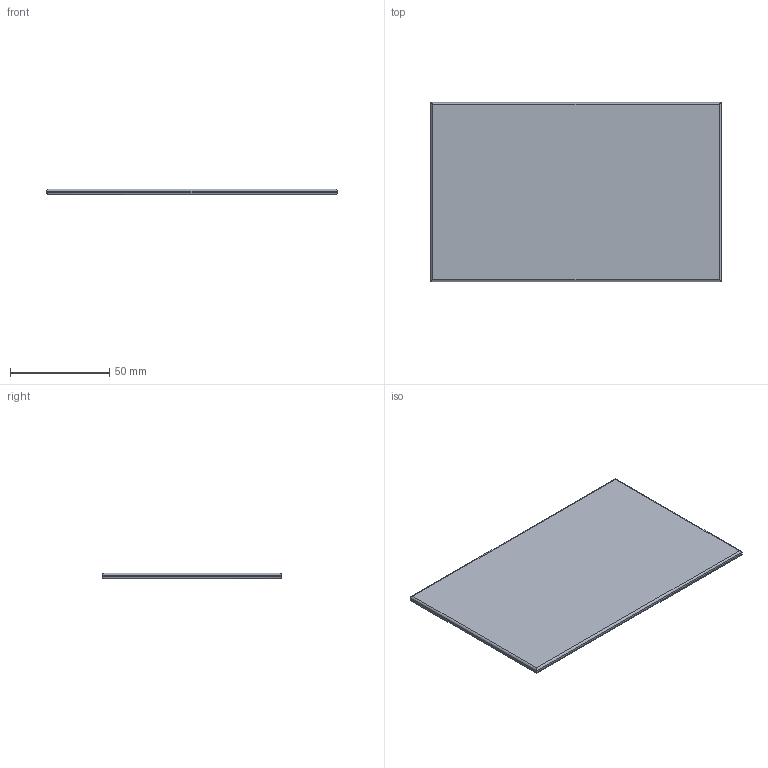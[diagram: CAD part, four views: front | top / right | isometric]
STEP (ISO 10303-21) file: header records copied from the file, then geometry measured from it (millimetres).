
FILE_DESCRIPTION(/* description */ (''),/* implementation_level */ '2;1');
FILE_NAME(/* name */ 'G:\YandexDisk\Работа\Inventor\Универ\ОАП\Лабораторные работы\ЛР6 Создание сборок\Редуктор\stp\Пластина.stp',/* time_stamp */ '2023-11-17T06:34:10+03:00',/* author */ ('34740'),/* organization */ (''),/* preprocessor_version */ 'ST-DEVELOPER v18.1',/* originating_system */ 'Autodesk Inventor 2022',/* authorisation */ '');
FILE_SCHEMA (('AUTOMOTIVE_DESIGN { 1 0 10303 214 3 1 1 }'));
Length unit declared in the file: millimetre
Products named in the file (1): Пластина
Bounding box: 146 x 90 x 3 mm (x, y, z)
Volume: 39218.2 mm3; surface area: 27289.7 mm2
Topology: 1 solids, 1 shells, 14 faces, 28 edges, 16 vertices
Faces by surface type: cylinder 8, plane 6
Entity records: 397 total; most frequent: DIRECTION 66, CARTESIAN_POINT 59, ORIENTED_EDGE 56, EDGE_CURVE 28, AXIS2_PLACEMENT_3D 23, LINE 20, VECTOR 20, VERTEX_POINT 16
